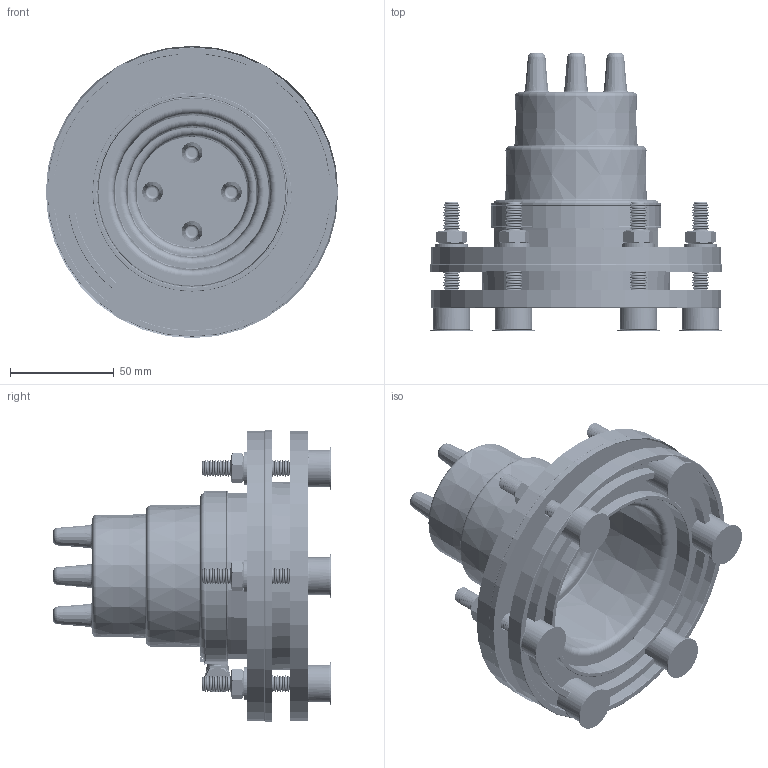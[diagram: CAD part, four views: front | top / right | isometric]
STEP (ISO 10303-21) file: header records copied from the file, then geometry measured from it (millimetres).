
FILE_DESCRIPTION (( 'STEP AP203' ), '1' );
FILE_NAME ('KPM_75-54.step', '2011-08-08T11:42:40', ( '' ), ( '' ), 'SwSTEP 2.0', 'SolidWorks 2011', '' );
FILE_SCHEMA (( 'CONFIG_CONTROL_DESIGN' ));
Products named in the file (1): KPM_75-54
Bounding box: 141 x 134.08 x 141 mm (x, y, z)
Volume: 221393.8 mm3; surface area: 174381.3 mm2
Topology: 9 solids, 45 shells, 3406 faces, 7094 edges, 3857 vertices
Faces by surface type: torus 1044, cone 994, cylinder 803, plane 547, bspline 16, sphere 2
Entity records: 91218 total; most frequent: DIRECTION 17941, CARTESIAN_POINT 16805, ORIENTED_EDGE 14188, AXIS2_PLACEMENT_3D 7753, EDGE_CURVE 7094, CIRCLE 4362, VERTEX_POINT 3857, EDGE_LOOP 3561
